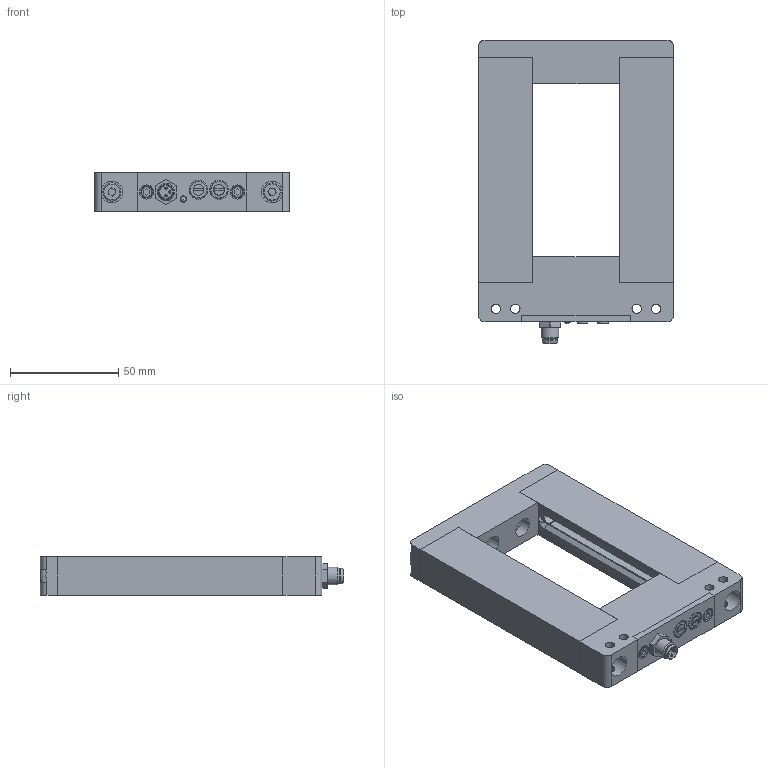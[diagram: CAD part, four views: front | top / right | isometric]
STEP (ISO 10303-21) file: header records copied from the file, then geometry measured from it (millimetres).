
FILE_DESCRIPTION(/* description */ (''),/* implementation_level */ '2;1');
FILE_NAME(/* name */ 'C:\#Vault-WorkDir\Konstruktions-Dokumente\Projekte\Rahmenlichtschranke\153-00293 FG 40 I-PSM3.stp',/* time_stamp */ '2014-12-18T09:35:11+01:00',/* author */ ('sandra.stahl'),/* organization */ (''),/* preprocessor_version */ 'ST-DEVELOPER v15.2',/* originating_system */ 'Autodesk Inventor 2014',/* authorisation */ '');
FILE_SCHEMA (('AUTOMOTIVE_DESIGN { 1 0 10303 214 3 1 1 }'));
Length unit declared in the file: millimetre
Products named in the file (1): GH-ENG-0008927
Bounding box: 90 x 140 x 18 mm (x, y, z)
Volume: 107545.7 mm3; surface area: 59310.2 mm2
Topology: 18 solids, 18 shells, 469 faces, 1150 edges, 752 vertices
Faces by surface type: plane 271, cylinder 149, cone 34, torus 9, sphere 4, bspline 2
Full cylindrical faces by diameter (mm): 0.6 x3, 1 x6, 2.5 x4, 2.8 x2, 3 x9, 3.2 x4, 3.3 x2, 3.8 x1, 4 x2, 4.2 x4, 4.3 x6, 5 x6, 5.4 x4, 5.5 x2, 5.8 x1, 6.2 x1, 6.4 x1, 6.8 x2, 7.2 x3, 8 x3, 8.1 x1, 8.4 x2, 8.5 x2, 8.7 x2, 9 x2, 10 x2
Entity records: 14089 total; most frequent: CARTESIAN_POINT 3257, DIRECTION 2228, ORIENTED_EDGE 1946, EDGE_CURVE 973, AXIS2_PLACEMENT_3D 813, VERTEX_POINT 693, EDGE_LOOP 676, LINE 602
